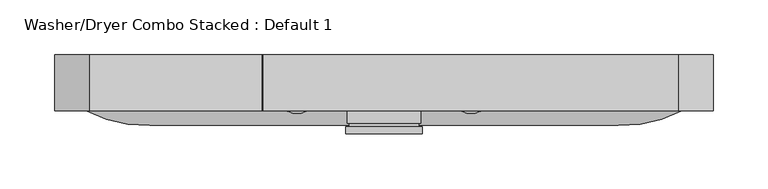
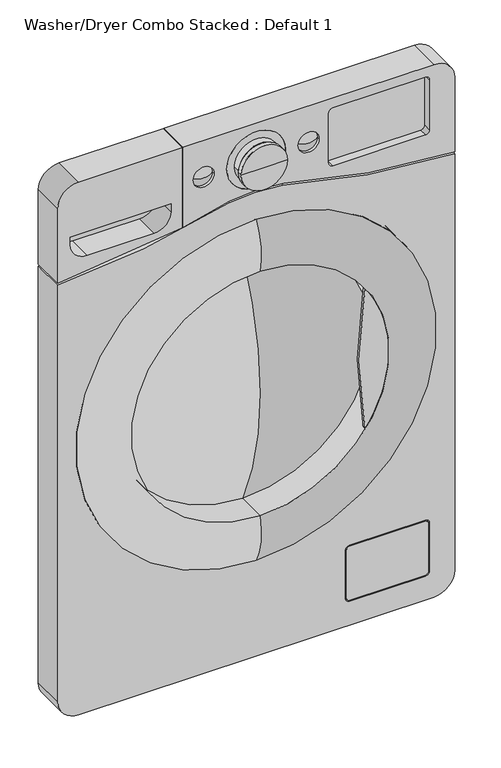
"""IFC4 building model written with IfcOpenShell, lengths in millimetres: proxy geometry, Washer/Dryer Combo Stacked : Default 1."""

from ifc_helpers import new_model, si_unit, point, frame, frame_2d, origin, place, context, project, spatial, polyline, circle_curve, ellipse_curve, trimmed, segment, composite_curve, outline, extrude, source, transform, mapped, element, save
from ifc_brep_helpers import plane_surface, cylinder_surface, revolved_surface, advanced_brep


def washer_dryer_combo_stacked_default_1_a79531fe(model_context):
    return source(origin(), model_context, "Body", "SolidModel", [
        advanced_brep(
        [(268.25, -599.2, 850.0), (300.0, -599.2, 818.25), (300.0, -599.2, 699.6273423), (41.197628, -599.2, 740.1937849), (-41.197628, -599.2, 740.1937849), (-110.0640352, -599.2, 722.9758922), (-110.0640352, -599.2, 850.0), (-63.5, -599.2, 792.2071157), (-95.25, -599.2, 792.2071157), (95.25, -599.2, 792.2071157), (63.5, -599.2, 792.2071157), (-44.45, -599.2, 792.2071157), (44.45, -599.2, 792.2071157), (-41.197628, -650.0, 740.1937849), (41.197628, -650.0, 740.1937849), (300.0, -650.0, 699.6273423), (300.0, -650.0, 818.25), (268.25, -650.0, 850.0), (-110.0640352, -650.0, 850.0), (-110.0640352, -650.0, 722.9758922), (-63.5, -650.0, 792.2071157), (-95.25, -650.0, 792.2071157), (95.25, -650.0, 792.2071157), (63.5, -650.0, 792.2071157), (255.55, -650.0, 742.05), (115.85, -650.0, 742.05), (109.5, -650.0, 748.4), (109.5, -650.0, 827.775), (115.85, -650.0, 834.125), (255.55, -650.0, 834.125), (261.9, -650.0, 827.775), (261.9, -650.0, 748.4), (44.45, -650.0, 792.2071157), (-44.45, -650.0, 792.2071157), (255.55, -637.3, 742.05), (261.9, -637.3, 748.4), (261.9, -637.3, 827.775), (255.55, -637.3, 834.125), (115.85, -637.3, 834.125), (109.5, -637.3, 827.775), (109.5, -637.3, 748.4), (115.85, -637.3, 742.05)],
        [
            (0, 1, circle_curve(frame((268.25, -599.2, 818.25), z_axis=(0.0, 1.0, 0.0), x_axis=(-1.0, 0.0, 0.0)), 31.75)),
            (1, 2),
            (2, 3, circle_curve(frame((335.100978, -599.2, 1769.3876052), z_axis=(0.0, 1.0, 0.0), x_axis=(-1.0, 0.0, 0.0)), 1070.3359747)),
            (3, 4, circle_curve(frame((0.0, -599.2, 425.0), z_axis=(0.0, -1.0, 0.0), x_axis=(-1.0, 0.0, 0.0)), 317.8747656)),
            (4, 5, circle_curve(frame((-335.100978, -599.2, 1769.3876052), z_axis=(0.0, 1.0, 0.0), x_axis=(-1.0, 0.0, 0.0)), 1070.3359747)),
            (5, 6),
            (6, 0),
            (7, 8, circle_curve(frame((-79.375, -599.2, 792.2071157), z_axis=(0.0, -1.0, 0.0), x_axis=(-1.0, 0.0, 0.0)), 15.875)),
            (8, 7, circle_curve(frame((-79.375, -599.2, 792.2071157), z_axis=(0.0, -1.0, 0.0), x_axis=(-1.0, 0.0, 0.0)), 15.875)),
            (9, 10, circle_curve(frame((79.375, -599.2, 792.2071157), z_axis=(0.0, -1.0, 0.0), x_axis=(-1.0, 0.0, 0.0)), 15.875)),
            (10, 9, circle_curve(frame((79.375, -599.2, 792.2071157), z_axis=(0.0, -1.0, 0.0), x_axis=(-1.0, 0.0, 0.0)), 15.875)),
            (11, 12, circle_curve(frame((0.0, -599.2, 792.2071157), z_axis=(0.0, -1.0, 0.0), x_axis=(-1.0, 0.0, 0.0)), 44.45)),
            (12, 11, circle_curve(frame((0.0, -599.2, 792.2071157), z_axis=(0.0, -1.0, 0.0), x_axis=(-1.0, 0.0, 0.0)), 44.45)),
            (13, 14, circle_curve(frame((0.0, -650.0, 425.0), z_axis=(0.0, 1.0, 0.0), x_axis=(-1.0, 0.0, 0.0)), 317.8747656)),
            (14, 15, circle_curve(frame((335.100978, -650.0, 1769.3876052), z_axis=(0.0, -1.0, 0.0), x_axis=(-1.0, 0.0, 0.0)), 1070.3359747)),
            (15, 16),
            (16, 17, circle_curve(frame((268.25, -650.0, 818.25), z_axis=(0.0, -1.0, 0.0), x_axis=(-1.0, 0.0, 0.0)), 31.75)),
            (17, 18),
            (18, 19),
            (19, 13, circle_curve(frame((-335.100978, -650.0, 1769.3876052), z_axis=(0.0, -1.0, 0.0), x_axis=(-1.0, 0.0, 0.0)), 1070.3359747)),
            (20, 21, circle_curve(frame((-79.375, -650.0, 792.2071157), z_axis=(0.0, 1.0, 0.0), x_axis=(-1.0, 0.0, 0.0)), 15.875)),
            (21, 20, circle_curve(frame((-79.375, -650.0, 792.2071157), z_axis=(0.0, 1.0, 0.0), x_axis=(-1.0, 0.0, 0.0)), 15.875)),
            (22, 23, circle_curve(frame((79.375, -650.0, 792.2071157), z_axis=(0.0, 1.0, 0.0), x_axis=(-1.0, 0.0, 0.0)), 15.875)),
            (23, 22, circle_curve(frame((79.375, -650.0, 792.2071157), z_axis=(0.0, 1.0, 0.0), x_axis=(-1.0, 0.0, 0.0)), 15.875)),
            (24, 25),
            (25, 26, circle_curve(frame((115.85, -650.0, 748.4), z_axis=(0.0, 1.0, 0.0), x_axis=(-1.0, 0.0, 0.0)), 6.35)),
            (26, 27),
            (27, 28, circle_curve(frame((115.85, -650.0, 827.775), z_axis=(0.0, 1.0, 0.0), x_axis=(-1.0, 0.0, 0.0)), 6.35)),
            (28, 29),
            (29, 30, circle_curve(frame((255.55, -650.0, 827.775), z_axis=(0.0, 1.0, 0.0), x_axis=(-1.0, 0.0, 0.0)), 6.35)),
            (30, 31),
            (31, 24, circle_curve(frame((255.55, -650.0, 748.4), z_axis=(0.0, 1.0, 0.0), x_axis=(-1.0, 0.0, 0.0)), 6.35)),
            (32, 33, circle_curve(frame((0.0, -650.0, 792.2071157), z_axis=(0.0, 1.0, 0.0), x_axis=(-1.0, 0.0, 0.0)), 44.45)),
            (33, 32, circle_curve(frame((0.0, -650.0, 792.2071157), z_axis=(0.0, 1.0, 0.0), x_axis=(-1.0, 0.0, 0.0)), 44.45)),
            (17, 0),
            (6, 18),
            (16, 1),
            (15, 2),
            (14, 3),
            (13, 4),
            (19, 5),
            (34, 35, circle_curve(frame((255.55, -637.3, 748.4), z_axis=(0.0, -1.0, 0.0), x_axis=(-1.0, 0.0, 0.0)), 6.35)),
            (35, 36),
            (36, 37, circle_curve(frame((255.55, -637.3, 827.775), z_axis=(0.0, -1.0, 0.0), x_axis=(-1.0, 0.0, 0.0)), 6.35)),
            (37, 38),
            (38, 39, circle_curve(frame((115.85, -637.3, 827.775), z_axis=(0.0, -1.0, 0.0), x_axis=(-1.0, 0.0, 0.0)), 6.35)),
            (39, 40),
            (40, 41, circle_curve(frame((115.85, -637.3, 748.4), z_axis=(0.0, -1.0, 0.0), x_axis=(-1.0, 0.0, 0.0)), 6.35)),
            (41, 34),
            (41, 25),
            (24, 34),
            (40, 26),
            (39, 27),
            (38, 28),
            (37, 29),
            (36, 30),
            (35, 31),
            (7, 20),
            (21, 8),
            (9, 22),
            (23, 10),
            (11, 33),
            (32, 12),
        ],
        [
            plane_surface(frame((236.5, -599.2, 818.25), z_axis=(0.0, 1.0, 0.0), x_axis=(0.0, 0.0, 1.0))),
            plane_surface(frame((236.5, -650.0, 818.25), z_axis=(0.0, -1.0, 0.0), x_axis=(0.0, 0.0, -1.0))),
            plane_surface(frame((-268.25, -599.2, 850.0), z_axis=(0.0, 0.0, 1.0), x_axis=(0.0, -1.0, 0.0))),
            cylinder_surface(frame((268.25, -650.0, 818.25), z_axis=(0.0, 1.0, 0.0), x_axis=(-1.0, 0.0, 0.0)), 31.75),
            plane_surface(frame((300.0, -599.2, 818.25), z_axis=(1.0, 0.0, 0.0), x_axis=(0.0, -1.0, 0.0))),
            cylinder_surface(frame((335.100978, -650.0, 1769.3876052), z_axis=(0.0, 1.0, 0.0), x_axis=(-1.0, 0.0, 0.0)), 1070.3359747),
            revolved_surface(polyline([(-317.8747656, -650.0, 425.0), (-317.8747656, -599.2, 425.0)]), (0.0, -650.0, 425.0), (0.0, -1.0, 0.0)),
            cylinder_surface(frame((-335.100978, -650.0, 1769.3876052), z_axis=(0.0, 1.0, 0.0), x_axis=(-1.0, 0.0, 0.0)), 1070.3359747),
            plane_surface(frame((-110.0640352, -599.2, 850.0), z_axis=(-1.0, 0.0, 0.0), x_axis=(0.0, -1.0, 0.0))),
            plane_surface(frame((115.85, -637.3, 742.05), z_axis=(0.0, -1.0, 0.0), x_axis=(-1.0, 0.0, 0.0))),
            plane_surface(frame((255.55, -637.3, 742.05), z_axis=(0.0, 0.0, 1.0), x_axis=(0.0, -1.0, 0.0))),
            revolved_surface(polyline([(109.5, -637.3, 748.4), (109.5, -650.0, 748.4)]), (115.85, -650.0, 748.4), (0.0, 1.0, 0.0)),
            plane_surface(frame((109.5, -637.3, 748.4), z_axis=(1.0, 0.0, 0.0), x_axis=(0.0, -1.0, 0.0))),
            revolved_surface(polyline([(109.5, -637.3, 827.775), (109.5, -650.0, 827.775)]), (115.85, -650.0, 827.775), (0.0, 1.0, 0.0)),
            plane_surface(frame((115.85, -637.3, 834.125), z_axis=(0.0, 0.0, -1.0), x_axis=(0.0, -1.0, 0.0))),
            revolved_surface(polyline([(249.20000000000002, -637.3, 827.775), (249.20000000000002, -650.0, 827.775)]), (255.55, -650.0, 827.775), (0.0, 1.0, 0.0)),
            plane_surface(frame((261.9, -637.3, 827.775), z_axis=(-1.0, 0.0, 0.0), x_axis=(0.0, -1.0, 0.0))),
            revolved_surface(polyline([(249.20000000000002, -637.3, 748.4), (249.20000000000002, -650.0, 748.4)]), (255.55, -650.0, 748.4), (0.0, 1.0, 0.0)),
            revolved_surface(polyline([(-95.25, -650.0, 792.2071157), (-95.25, -599.2, 792.2071157)]), (-79.375, -650.0, 792.2071157), (0.0, -1.0, 0.0)),
            revolved_surface(polyline([(63.5, -650.0, 792.2071157), (63.5, -599.2, 792.2071157)]), (79.375, -650.0, 792.2071157), (0.0, -1.0, 0.0)),
            revolved_surface(polyline([(-44.45, -599.2, 792.2071157), (-44.45, -650.0, 792.2071157)]), (0.0, -650.0, 792.2071157), (0.0, 1.0, 0.0)),
        ],
        [
            (0, [[1, 2, 3, 4, 5, 6, 7], [8, 9], [10, 11], [12, 13]]),
            (1, [[14, 15, 16, 17, 18, 19, 20], [21, 22], [23, 24], [25, 26, 27, 28, 29, 30, 31, 32], [33, 34]]),
            (2, [[35, -7, 36, -18]]),
            (3, [[-1, -35, -17, 37]]),
            (4, [[-2, -37, -16, 38]]),
            (5, [[-3, -38, -15, 39]]),
            (6, [[-4, -39, -14, 40]]),
            (7, [[-40, -20, 41, -5]]),
            (8, [[-6, -41, -19, -36]]),
            (9, [[42, 43, 44, 45, 46, 47, 48, 49]]),
            (10, [[-49, 50, -25, 51]]),
            (11, [[-48, 52, -26, -50]]),
            (12, [[-47, 53, -27, -52]]),
            (13, [[-46, 54, -28, -53]]),
            (14, [[-45, 55, -29, -54]]),
            (15, [[-44, 56, -30, -55]]),
            (16, [[-43, 57, -31, -56]]),
            (17, [[-42, -51, -32, -57]]),
            (18, [[-8, 58, -22, 59]]),
            (18, [[-9, -59, -21, -58]]),
            (19, [[-10, 60, -24, 61]]),
            (19, [[-11, -61, -23, -60]]),
            (20, [[62, -33, 63, -12]]),
            (20, [[-62, -13, -63, -34]]),
        ],
    ),
        advanced_brep(
        [(-300.0, -599.2, 699.6273423), (-300.0, -599.2, 818.25), (-268.25, -599.2, 850.0), (-111.6515352, -599.2, 850.0), (-111.6515352, -599.2, 722.6357505), (-268.25, -650.0, 850.0), (-300.0, -650.0, 818.25), (-300.0, -650.0, 699.6273423), (-111.6515352, -650.0, 722.6357505), (-111.6515352, -650.0, 850.0), (-128.55, -650.0, 766.8071157), (-128.55, -650.0, 754.1071157), (-153.95, -650.0, 728.7071157), (-255.55, -650.0, 728.7071157), (-280.95, -650.0, 754.1071157), (-280.95, -650.0, 766.8071157), (-128.55, -611.9, 766.8071157), (-280.95, -611.9, 766.8071157), (-280.95, -611.9, 754.1071157), (-255.55, -611.9, 728.7071157), (-153.95, -611.9, 728.7071157), (-128.55, -611.9, 754.1071157)],
        [
            (0, 1),
            (1, 2, circle_curve(frame((-268.25, -599.2, 818.25), z_axis=(0.0, 1.0, 0.0), x_axis=(-1.0, 0.0, 0.0)), 31.75)),
            (2, 3),
            (3, 4),
            (4, 0, circle_curve(frame((-335.100978, -599.2, 1769.3876052), z_axis=(0.0, 1.0, 0.0), x_axis=(-1.0, 0.0, 0.0)), 1070.3359747)),
            (5, 6, circle_curve(frame((-268.25, -650.0, 818.25), z_axis=(0.0, -1.0, 0.0), x_axis=(-1.0, 0.0, 0.0)), 31.75)),
            (6, 7),
            (7, 8, circle_curve(frame((-335.100978, -650.0, 1769.3876052), z_axis=(0.0, -1.0, 0.0), x_axis=(-1.0, 0.0, 0.0)), 1070.3359747)),
            (8, 9),
            (9, 5),
            (10, 11),
            (11, 12, circle_curve(frame((-153.95, -650.0, 754.1071157), z_axis=(0.0, 1.0, 0.0), x_axis=(-1.0, 0.0, 0.0)), 25.4)),
            (12, 13),
            (13, 14, circle_curve(frame((-255.55, -650.0, 754.1071157), z_axis=(0.0, 1.0, 0.0), x_axis=(-1.0, 0.0, 0.0)), 25.4)),
            (14, 15),
            (15, 10),
            (2, 5),
            (9, 3),
            (7, 0),
            (4, 8),
            (6, 1),
            (16, 17),
            (17, 18),
            (18, 19, circle_curve(frame((-255.55, -611.9, 754.1071157), z_axis=(0.0, -1.0, 0.0), x_axis=(-1.0, 0.0, 0.0)), 25.4)),
            (19, 20),
            (20, 21, circle_curve(frame((-153.95, -611.9, 754.1071157), z_axis=(0.0, -1.0, 0.0), x_axis=(-1.0, 0.0, 0.0)), 25.4)),
            (21, 16),
            (21, 11),
            (10, 16),
            (20, 12),
            (19, 13),
            (18, 14),
            (17, 15),
        ],
        [
            plane_surface(frame((236.5, -599.2, 818.25), z_axis=(0.0, 1.0, 0.0), x_axis=(0.0, 0.0, 1.0))),
            plane_surface(frame((236.5, -650.0, 818.25), z_axis=(0.0, -1.0, 0.0), x_axis=(0.0, 0.0, -1.0))),
            plane_surface(frame((-268.25, -599.2, 850.0), z_axis=(0.0, 0.0, 1.0), x_axis=(0.0, -1.0, 0.0))),
            cylinder_surface(frame((-335.100978, -650.0, 1769.3876052), z_axis=(0.0, 1.0, 0.0), x_axis=(-1.0, 0.0, 0.0)), 1070.3359747),
            plane_surface(frame((-300.0, -599.2, 699.6273423), z_axis=(-1.0, 0.0, 0.0), x_axis=(0.0, -1.0, 0.0))),
            cylinder_surface(frame((-268.25, -650.0, 818.25), z_axis=(0.0, 1.0, 0.0), x_axis=(-1.0, 0.0, 0.0)), 31.75),
            plane_surface(frame((-128.55, -611.9, 766.8071157), z_axis=(0.0, -1.0, 0.0), x_axis=(0.0, 0.0, -1.0))),
            plane_surface(frame((-128.55, -611.9, 766.8071157), z_axis=(-1.0, 0.0, 0.0), x_axis=(0.0, -1.0, 0.0))),
            revolved_surface(polyline([(-179.35, -611.9, 754.1071157), (-179.35, -650.0, 754.1071157)]), (-153.95, -650.0, 754.1071157), (0.0, 1.0, 0.0)),
            plane_surface(frame((-153.95, -611.9, 728.7071157), z_axis=(0.0, 0.0, 1.0), x_axis=(0.0, -1.0, 0.0))),
            revolved_surface(polyline([(-280.95, -611.9, 754.1071157), (-280.95, -650.0, 754.1071157)]), (-255.55, -650.0, 754.1071157), (0.0, 1.0, 0.0)),
            plane_surface(frame((-280.95, -611.9, 754.1071157), z_axis=(1.0, 0.0, 0.0), x_axis=(0.0, -1.0, 0.0))),
            plane_surface(frame((-280.95, -611.9, 766.8071157), z_axis=(0.0, 0.0, -1.0), x_axis=(0.0, -1.0, 0.0))),
            plane_surface(frame((-111.6515352, -599.2, 721.6531644), z_axis=(1.0, 0.0, 0.0), x_axis=(0.0, -1.0, 0.0))),
        ],
        [
            (0, [[1, 2, 3, 4, 5]]),
            (1, [[6, 7, 8, 9, 10], [11, 12, 13, 14, 15, 16]]),
            (2, [[17, -10, 18, -3]]),
            (3, [[19, -5, 20, -8]]),
            (4, [[-1, -19, -7, 21]]),
            (5, [[-2, -21, -6, -17]]),
            (6, [[22, 23, 24, 25, 26, 27]]),
            (7, [[-27, 28, -11, 29]]),
            (8, [[-26, 30, -12, -28]]),
            (9, [[-25, 31, -13, -30]]),
            (10, [[-24, 32, -14, -31]]),
            (11, [[-23, 33, -15, -32]]),
            (12, [[-22, -29, -16, -33]]),
            (13, [[-4, -18, -9, -20]]),
        ],
    ),
        advanced_brep(
        [(-300.0, -599.2, 696.4508315), (-40.4210503, -599.2, 737.1138337), (40.4210503, -599.2, 737.1138337), (300.0, -599.2, 696.4508315), (300.0, -599.2, 31.75), (268.25, -599.2, 0.0), (-268.25, -599.2, 0.0), (-300.0, -599.2, 31.75), (254.0, -599.2, 425.0), (-254.0, -599.2, 425.0), (-300.0, -650.0, 696.4508315), (-300.0, -650.0, 31.75), (-268.25, -650.0, 0.0), (268.25, -650.0, 0.0), (300.0, -650.0, 31.75), (300.0, -650.0, 696.4508315), (40.4210503, -650.0, 737.1138337), (-40.4210503, -650.0, 737.1138337), (254.0, -650.0, 425.0), (-254.0, -650.0, 425.0), (261.9, -650.0, 120.65), (261.9, -650.0, 44.45), (255.55, -650.0, 38.1), (141.25, -650.0, 38.1), (134.9, -650.0, 44.45), (134.9, -650.0, 120.65), (141.25, -650.0, 127.0), (255.55, -650.0, 127.0), (260.3125, -650.0, 44.45), (260.3125, -650.0, 120.65), (255.55, -650.0, 125.4125), (141.25, -650.0, 125.4125), (136.4875, -650.0, 120.65), (136.4875, -650.0, 44.45), (141.25, -650.0, 39.6875), (255.55, -650.0, 39.6875), (260.3125, -636.50625, 44.45), (260.3125, -636.50625, 120.65), (261.9, -636.50625, 120.65), (261.9, -636.50625, 44.45), (141.25, -636.50625, 39.6875), (255.55, -636.50625, 39.6875), (255.55, -636.50625, 38.1), (141.25, -636.50625, 38.1), (136.4875, -636.50625, 120.65), (136.4875, -636.50625, 44.45), (134.9, -636.50625, 44.45), (134.9, -636.50625, 120.65), (255.55, -636.50625, 125.4125), (141.25, -636.50625, 125.4125), (141.25, -636.50625, 127.0), (255.55, -636.50625, 127.0)],
        [
            (0, 1, circle_curve(frame((-335.100978, -599.2, 1769.3876052), z_axis=(0.0, -1.0, 0.0), x_axis=(-1.0, 0.0, 0.0)), 1073.510782)),
            (1, 2, circle_curve(frame((0.0, -599.2, 425.0), z_axis=(0.0, 1.0, 0.0), x_axis=(-1.0, 0.0, 0.0)), 314.7203624)),
            (2, 3, circle_curve(frame((335.100978, -599.2, 1769.3876052), z_axis=(0.0, -1.0, 0.0), x_axis=(-1.0, 0.0, 0.0)), 1073.510782)),
            (3, 4),
            (4, 5, circle_curve(frame((268.25, -599.2, 31.75), z_axis=(0.0, 1.0, 0.0), x_axis=(-1.0, 0.0, 0.0)), 31.75)),
            (5, 6),
            (6, 7, circle_curve(frame((-268.25, -599.2, 31.75), z_axis=(0.0, 1.0, 0.0), x_axis=(-1.0, 0.0, 0.0)), 31.75)),
            (7, 0),
            (8, 9, circle_curve(frame((0.0, -599.2, 425.0), z_axis=(0.0, -1.0, 0.0), x_axis=(-1.0, 0.0, 0.0)), 254.0)),
            (9, 8, circle_curve(frame((0.0, -599.2, 425.0), z_axis=(0.0, -1.0, 0.0), x_axis=(-1.0, 0.0, 0.0)), 254.0)),
            (10, 11),
            (11, 12, circle_curve(frame((-268.25, -650.0, 31.75), z_axis=(0.0, -1.0, 0.0), x_axis=(-1.0, 0.0, 0.0)), 31.75)),
            (12, 13),
            (13, 14, circle_curve(frame((268.25, -650.0, 31.75), z_axis=(0.0, -1.0, 0.0), x_axis=(-1.0, 0.0, 0.0)), 31.75)),
            (14, 15),
            (15, 16, circle_curve(frame((335.100978, -650.0, 1769.3876052), z_axis=(0.0, 1.0, 0.0), x_axis=(-1.0, 0.0, 0.0)), 1073.510782)),
            (16, 17, circle_curve(frame((0.0, -650.0, 425.0), z_axis=(0.0, -1.0, 0.0), x_axis=(-1.0, 0.0, 0.0)), 314.7203624)),
            (17, 10, circle_curve(frame((-335.100978, -650.0, 1769.3876052), z_axis=(0.0, 1.0, 0.0), x_axis=(-1.0, 0.0, 0.0)), 1073.510782)),
            (18, 19, circle_curve(frame((0.0, -650.0, 425.0), z_axis=(0.0, 1.0, 0.0), x_axis=(-1.0, 0.0, 0.0)), 254.0)),
            (19, 18, circle_curve(frame((0.0, -650.0, 425.0), z_axis=(0.0, 1.0, 0.0), x_axis=(-1.0, 0.0, 0.0)), 254.0)),
            (20, 21),
            (21, 22, circle_curve(frame((255.55, -650.0, 44.45), z_axis=(0.0, 1.0, 0.0), x_axis=(1.0, 0.0, 0.0)), 6.35)),
            (22, 23),
            (23, 24, circle_curve(frame((141.25, -650.0, 44.45), z_axis=(0.0, 1.0, 0.0), x_axis=(0.0, 0.0, -1.0)), 6.35)),
            (24, 25),
            (25, 26, circle_curve(frame((141.25, -650.0, 120.65), z_axis=(0.0, 1.0, 0.0), x_axis=(-1.0, 0.0, 0.0)), 6.35)),
            (26, 27),
            (27, 20, circle_curve(frame((255.55, -650.0, 120.65), z_axis=(0.0, 1.0, 0.0), x_axis=(0.0, 0.0, 1.0)), 6.35)),
            (28, 29),
            (29, 30, circle_curve(frame((255.55, -650.0, 120.65), z_axis=(0.0, -1.0, 0.0), x_axis=(0.0, 0.0, 1.0)), 4.7625)),
            (30, 31),
            (31, 32, circle_curve(frame((141.25, -650.0, 120.65), z_axis=(0.0, -1.0, 0.0), x_axis=(-1.0, 0.0, 0.0)), 4.7625)),
            (32, 33),
            (33, 34, circle_curve(frame((141.25, -650.0, 44.45), z_axis=(0.0, -1.0, 0.0), x_axis=(0.0, 0.0, -1.0)), 4.7625)),
            (34, 35),
            (35, 28, circle_curve(frame((255.55, -650.0, 44.45), z_axis=(0.0, -1.0, 0.0), x_axis=(1.0, 0.0, 0.0)), 4.7625)),
            (3, 15),
            (14, 4),
            (5, 13),
            (12, 6),
            (7, 11),
            (10, 0),
            (17, 1),
            (16, 2),
            (8, 18),
            (19, 9),
            (28, 36),
            (36, 37),
            (37, 29),
            (38, 39),
            (39, 21),
            (20, 38),
            (34, 40),
            (40, 41),
            (41, 35),
            (42, 43),
            (43, 23),
            (22, 42),
            (32, 44),
            (44, 45),
            (45, 33),
            (46, 47),
            (47, 25),
            (24, 46),
            (30, 48),
            (48, 49),
            (49, 31),
            (50, 51),
            (51, 27),
            (26, 50),
            (37, 48, circle_curve(frame((255.55, -636.50625, 120.65), z_axis=(0.0, -1.0, 0.0), x_axis=(0.0, 0.0, 1.0)), 4.7625)),
            (51, 38, circle_curve(frame((255.55, -636.50625, 120.65), z_axis=(0.0, 1.0, 0.0), x_axis=(0.0, 0.0, 1.0)), 6.35)),
            (41, 36, circle_curve(frame((255.55, -636.50625, 44.45), z_axis=(0.0, -1.0, 0.0), x_axis=(1.0, 0.0, 0.0)), 4.7625)),
            (39, 42, circle_curve(frame((255.55, -636.50625, 44.45), z_axis=(0.0, 1.0, 0.0), x_axis=(1.0, 0.0, 0.0)), 6.35)),
            (45, 40, circle_curve(frame((141.25, -636.50625, 44.45), z_axis=(0.0, -1.0, 0.0), x_axis=(0.0, 0.0, -1.0)), 4.7625)),
            (43, 46, circle_curve(frame((141.25, -636.50625, 44.45), z_axis=(0.0, 1.0, 0.0), x_axis=(0.0, 0.0, -1.0)), 6.35)),
            (50, 47, circle_curve(frame((141.25, -636.50625, 120.65), z_axis=(0.0, -1.0, 0.0), x_axis=(-1.0, 0.0, 0.0)), 6.35)),
            (44, 49, circle_curve(frame((141.25, -636.50625, 120.65), z_axis=(0.0, 1.0, 0.0), x_axis=(-1.0, 0.0, 0.0)), 4.7625)),
        ],
        [
            plane_surface(frame((236.5, -599.2, 818.25), z_axis=(0.0, 1.0, 0.0), x_axis=(0.0, 0.0, 1.0))),
            plane_surface(frame((236.5, -650.0, 818.25), z_axis=(0.0, -1.0, 0.0), x_axis=(0.0, 0.0, -1.0))),
            plane_surface(frame((300.0, -599.2, 696.4508315), z_axis=(1.0, 0.0, 0.0), x_axis=(0.0, -1.0, 0.0))),
            plane_surface(frame((268.25, -599.2, 0.0), z_axis=(0.0, 0.0, -1.0), x_axis=(0.0, -1.0, 0.0))),
            plane_surface(frame((-300.0, -599.2, 31.75), z_axis=(-1.0, 0.0, 0.0), x_axis=(0.0, -1.0, 0.0))),
            revolved_surface(polyline([(-1408.61176, -650.0, 1769.3876052), (-1408.61176, -599.2, 1769.3876052)]), (-335.100978, -650.0, 1769.3876052), (0.0, -1.0, 0.0)),
            cylinder_surface(frame((0.0, -650.0, 425.0), z_axis=(0.0, 1.0, 0.0), x_axis=(-1.0, 0.0, 0.0)), 314.7203624),
            revolved_surface(polyline([(-738.4098040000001, -650.0, 1769.3876052), (-738.4098040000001, -599.2, 1769.3876052)]), (335.100978, -650.0, 1769.3876052), (0.0, -1.0, 0.0)),
            cylinder_surface(frame((268.25, -650.0, 31.75), z_axis=(0.0, 1.0, 0.0), x_axis=(-1.0, 0.0, 0.0)), 31.75),
            cylinder_surface(frame((-268.25, -650.0, 31.75), z_axis=(0.0, 1.0, 0.0), x_axis=(-1.0, 0.0, 0.0)), 31.75),
            revolved_surface(polyline([(-254.0, -650.0, 425.0), (-254.0, -599.2, 425.0)]), (0.0, -650.0, 425.0), (0.0, -1.0, 0.0)),
            plane_surface(frame((260.3125, -636.50625, 120.65), z_axis=(1.0, 0.0, 0.0), x_axis=(0.0, 0.0, -1.0))),
            plane_surface(frame((261.9, -650.0, 120.65), z_axis=(-1.0, 0.0, 0.0), x_axis=(0.0, 0.0, -1.0))),
            plane_surface(frame((255.55, -636.50625, 39.6875), z_axis=(0.0, 0.0, -1.0), x_axis=(-1.0, 0.0, 0.0))),
            plane_surface(frame((255.55, -650.0, 38.1), z_axis=(0.0, 0.0, 1.0), x_axis=(-1.0, 0.0, 0.0))),
            plane_surface(frame((136.4875, -636.50625, 44.45), z_axis=(-1.0, 0.0, 0.0), x_axis=(0.0, 0.0, 1.0))),
            plane_surface(frame((134.9, -650.0, 44.45), z_axis=(1.0, 0.0, 0.0), x_axis=(0.0, 0.0, 1.0))),
            plane_surface(frame((141.25, -636.50625, 125.4125), z_axis=(0.0, 0.0, 1.0), x_axis=(1.0, 0.0, 0.0))),
            plane_surface(frame((141.25, -650.0, 127.0), z_axis=(0.0, 0.0, -1.0), x_axis=(1.0, 0.0, 0.0))),
            cylinder_surface(frame((255.55, -650.0, 120.65), z_axis=(0.0, 1.0, 0.0), x_axis=(0.0, 0.0, 1.0)), 4.7625),
            revolved_surface(polyline([(255.55, -636.50625, 127.0), (255.55, -650.0, 127.0)]), (255.55, -650.0, 120.65), (0.0, 1.0, 0.0)),
            cylinder_surface(frame((255.55, -650.0, 44.45), z_axis=(0.0, 1.0, 0.0), x_axis=(1.0, 0.0, 0.0)), 4.7625),
            revolved_surface(polyline([(261.90000000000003, -636.50625, 44.45), (261.90000000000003, -650.0, 44.45)]), (255.55, -650.0, 44.45), (0.0, 1.0, 0.0)),
            cylinder_surface(frame((141.25, -650.0, 44.45), z_axis=(0.0, 1.0, 0.0), x_axis=(0.0, 0.0, -1.0)), 4.7625),
            revolved_surface(polyline([(141.25, -636.50625, 38.1), (141.25, -650.0, 38.1)]), (141.25, -650.0, 44.45), (0.0, 1.0, 0.0)),
            plane_surface(frame((141.25, -636.50625, 120.65), z_axis=(0.0, -1.0, 0.0), x_axis=(-1.0, 0.0, 0.0))),
            cylinder_surface(frame((141.25, -650.0, 120.65), z_axis=(0.0, 1.0, 0.0), x_axis=(-1.0, 0.0, 0.0)), 4.7625),
            revolved_surface(polyline([(134.9, -636.50625, 120.65), (134.9, -650.0, 120.65)]), (141.25, -650.0, 120.65), (0.0, 1.0, 0.0)),
        ],
        [
            (0, [[1, 2, 3, 4, 5, 6, 7, 8], [9, 10]]),
            (1, [[11, 12, 13, 14, 15, 16, 17, 18], [19, 20], [21, 22, 23, 24, 25, 26, 27, 28]]),
            (1, [[29, 30, 31, 32, 33, 34, 35, 36]]),
            (2, [[-4, 37, -15, 38]]),
            (3, [[-6, 39, -13, 40]]),
            (4, [[-8, 41, -11, 42]]),
            (5, [[-1, -42, -18, 43]]),
            (6, [[-2, -43, -17, 44]]),
            (7, [[-3, -44, -16, -37]]),
            (8, [[-5, -38, -14, -39]]),
            (9, [[-7, -40, -12, -41]]),
            (10, [[-9, 45, -20, 46]]),
            (10, [[-10, -46, -19, -45]]),
            (11, [[47, 48, 49, -29]]),
            (12, [[50, 51, -21, 52]]),
            (13, [[53, 54, 55, -35]]),
            (14, [[56, 57, -23, 58]]),
            (15, [[59, 60, 61, -33]]),
            (16, [[62, 63, -25, 64]]),
            (17, [[65, 66, 67, -31]]),
            (18, [[68, 69, -27, 70]]),
            (19, [[-49, 71, -65, -30]]),
            (20, [[-52, -28, -69, 72]]),
            (21, [[-47, -36, -55, 73]]),
            (22, [[-51, 74, -58, -22]]),
            (23, [[-53, -34, -61, 75]]),
            (24, [[-57, 76, -64, -24]]),
            (25, [[-50, -72, -68, 77, -62, -76, -56, -74], [-48, -73, -54, -75, -60, 78, -66, -71]]),
            (26, [[-59, -32, -67, -78]]),
            (27, [[-63, -77, -70, -26]]),
        ],
    ),
        advanced_brep(
        [(0.0, -599.2, 230.1111611), (0.0, -599.2, 619.8888389), (0.0, -599.2, 425.0), (0.0, -614.2356465, 230.1111611), (0.0, -614.2356465, 619.8888389), (0.0, -660.0440862, 425.0)],
        [
            (0, 1, circle_curve(frame((0.0, -599.2, 425.0), z_axis=(0.0, 1.0, 0.0), x_axis=(0.0, 0.0, 1.0)), 194.8888389)),
            (1, 2),
            (2, 0),
            (1, 0, circle_curve(frame((0.0, -599.2, 425.0), z_axis=(0.0, 1.0, 0.0), x_axis=(0.0, 0.0, 1.0)), 194.8888389)),
            (3, 4, circle_curve(frame((0.0, -614.2356465, 425.0), z_axis=(0.0, 1.0, 0.0), x_axis=(0.0, 0.0, 1.0)), 194.8888389)),
            (4, 1),
            (0, 3),
            (4, 3, circle_curve(frame((0.0, -614.2356465, 425.0), z_axis=(0.0, 1.0, 0.0), x_axis=(0.0, 0.0, 1.0)), 194.8888389)),
            (5, 4, circle_curve(frame((0.0, -222.5693225, 425.0), z_axis=(-1.0, 0.0, 0.0), x_axis=(0.0, 1.0, 0.0)), 437.4747638)),
            (3, 5, circle_curve(frame((0.0, -222.5693225, 425.0), z_axis=(-1.0, 0.0, 0.0), x_axis=(0.0, 1.0, 0.0)), 437.4747638)),
        ],
        [
            plane_surface(frame((0.0, -599.2, 425.0), z_axis=(0.0, 1.0, 0.0), x_axis=(0.0, 0.0, 1.0))),
            cylinder_surface(frame((0.0, 2097.4086068, 425.0), z_axis=(0.0, -1.0, 0.0), x_axis=(0.0, 0.0, 1.0)), 194.8888389),
            revolved_surface(trimmed(ellipse_curve(frame((0.0, -222.5693225, 425.0), z_axis=(1.0, 0.0, 0.0), x_axis=(0.0, 1.0, 0.0)), 437.4747638, 437.4747638), [point((0.0, -614.2356465, 619.8888389))], [point((0.0, -660.0440862, 425.0))], True, "CARTESIAN"), (0.0, 2097.4086068, 425.0), (0.0, -1.0, 0.0)),
        ],
        [
            (0, [[1, 2, 3]]),
            (0, [[4, -3, -2]]),
            (1, [[5, 6, -1, 7]]),
            (1, [[8, -7, -4, -6]]),
            (2, [[9, -5, 10]]),
            (2, [[-10, -8, -9]]),
        ],
    ),
        advanced_brep(
        [(0.0, -660.1804538, 230.1111611), (0.0, -660.1804538, 619.8888389), (0.0, -650.0, 698.05), (0.0, -650.0, 151.95), (0.0, -599.2, 230.1111611), (0.0, -599.2, 619.8888389), (0.0, -599.2, 151.95), (0.0, -599.2, 698.05)],
        [
            (0, 1, circle_curve(frame((0.0, -660.1804538, 425.0), z_axis=(0.0, 1.0, 0.0), x_axis=(0.0, 0.0, 1.0)), 194.8888389)),
            (1, 2, circle_curve(frame((0.0, -553.6052478, 645.7510496), z_axis=(-1.0, 0.0, 0.0), x_axis=(0.0, 1.0, 0.0)), 109.6682655)),
            (2, 3, circle_curve(frame((0.0, -650.0, 425.0), z_axis=(0.0, -1.0, 0.0), x_axis=(0.0, 0.0, 1.0)), 273.05)),
            (3, 0, circle_curve(frame((0.0, -553.6052478, 204.2489504), z_axis=(-1.0, 0.0, 0.0), x_axis=(0.0, 1.0, 0.0)), 109.6682655)),
            (1, 0, circle_curve(frame((0.0, -660.1804538, 425.0), z_axis=(0.0, 1.0, 0.0), x_axis=(0.0, 0.0, 1.0)), 194.8888389)),
            (3, 2, circle_curve(frame((0.0, -650.0, 425.0), z_axis=(0.0, -1.0, 0.0), x_axis=(0.0, 0.0, 1.0)), 273.05)),
            (4, 5, circle_curve(frame((0.0, -599.2, 425.0), z_axis=(0.0, 1.0, 0.0), x_axis=(0.0, 0.0, 1.0)), 194.8888389)),
            (5, 1),
            (0, 4),
            (5, 4, circle_curve(frame((0.0, -599.2, 425.0), z_axis=(0.0, 1.0, 0.0), x_axis=(0.0, 0.0, 1.0)), 194.8888389)),
            (6, 7, circle_curve(frame((0.0, -599.2, 425.0), z_axis=(0.0, 1.0, 0.0), x_axis=(0.0, 0.0, 1.0)), 273.05)),
            (7, 5),
            (4, 6),
            (7, 6, circle_curve(frame((0.0, -599.2, 425.0), z_axis=(0.0, 1.0, 0.0), x_axis=(0.0, 0.0, 1.0)), 273.05)),
            (2, 7),
            (6, 3),
        ],
        [
            revolved_surface(trimmed(ellipse_curve(frame((0.0, -553.6052478, 645.7510496), z_axis=(1.0, 0.0, 0.0), x_axis=(0.0, 1.0, 0.0)), 109.6682655, 109.6682655), [point((0.0, -650.0, 698.05))], [point((0.0, -660.1804538, 619.8888389))], True, "CARTESIAN"), (0.0, 2097.4086068, 425.0), (0.0, -1.0, 0.0)),
            revolved_surface(polyline([(0.0, -660.1804538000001, 619.8888389), (0.0, -599.2000000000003, 619.8888389)]), (0.0, 2097.4086068, 425.0), (0.0, -1.0, 0.0)),
            plane_surface(frame((0.0, -599.2, 425.0), z_axis=(0.0, 1.0, 0.0), x_axis=(0.0, 0.0, 1.0))),
            cylinder_surface(frame((0.0, 2097.4086068, 425.0), z_axis=(0.0, -1.0, 0.0), x_axis=(0.0, 0.0, 1.0)), 273.05),
        ],
        [
            (0, [[1, 2, 3, 4]]),
            (0, [[5, -4, 6, -2]]),
            (1, [[7, 8, -1, 9]]),
            (1, [[10, -9, -5, -8]]),
            (2, [[11, 12, -7, 13]]),
            (2, [[14, -13, -10, -12]]),
            (3, [[-3, 15, -11, 16]]),
            (3, [[-6, -16, -14, -15]]),
        ],
    ),
        extrude(outline(composite_curve([segment(trimmed(circle_curve(frame_2d((792.2071157, 0.0)), 44.45), [point((792.2071157, 44.45))], [point((792.2071157, -44.45))], False, "CARTESIAN"), True, "CONTINUOUS"), segment(trimmed(circle_curve(frame_2d((792.2071157, 0.0)), 44.45), [point((792.2071157, -44.45))], [point((792.2071157, 44.45))], False, "CARTESIAN"), True, "CONTINUOUS")], self_intersect=False)), frame((0.0, -650.0, 0.0), z_axis=(0.0, 1.0, 0.0), x_axis=(0.0, 0.0, 1.0)), (0.0, 0.0, 1.0), 50.8),
        extrude(outline(composite_curve([segment(trimmed(circle_curve(frame_2d((425.0, 0.0)), 194.8888389), [point((311.5007643, 158.4284792))], [point((538.4992357, 158.4284792))], False, "CARTESIAN"), True, "CONTINUOUS"), segment(trimmed(circle_curve(frame_2d((425.0, 881.0247467)), 731.4557009), [point((538.4992357, 158.4284792))], [point((311.5007643, 158.4284792))], False, "CARTESIAN"), True, "CONTINUOUS")], self_intersect=False)), frame((0.0, -660.1804538, 0.0), z_axis=(0.0, 1.0, 0.0), x_axis=(0.0, 0.0, 1.0)), (0.0, 0.0, 1.0), 3.5920829),
        advanced_brep(
        [(79.375, -652.3559326, 792.2071157), (63.5, -646.0059326, 792.2071157), (95.25, -646.0059326, 792.2071157), (79.375, -646.0059326, 792.2071157)],
        [
            (0, 1, circle_curve(frame((81.0201143, -625.2243968, 792.2071157), z_axis=(0.0, 0.0, -1.0), x_axis=(-1.0, 0.0, 0.0)), 27.1813656)),
            (1, 2, circle_curve(frame((79.375, -646.0059326, 792.2071157), z_axis=(0.0, -1.0, 0.0), x_axis=(-1.0, 0.0, 0.0)), 15.875)),
            (2, 0, circle_curve(frame((77.7298857, -625.2243968, 792.2071157), z_axis=(0.0, 0.0, -1.0), x_axis=(1.0, 0.0, 0.0)), 27.1813656)),
            (2, 1, circle_curve(frame((79.375, -646.0059326, 792.2071157), z_axis=(0.0, -1.0, 0.0), x_axis=(-1.0, 0.0, 0.0)), 15.875)),
            (1, 3),
            (3, 2),
        ],
        [
            revolved_surface(trimmed(ellipse_curve(frame((81.0201143, -625.2243968, 792.2071157), z_axis=(0.0, 0.0, 1.0), x_axis=(-1.0, 0.0, 0.0)), 27.1813656, 27.1813656), [point((63.5, -646.0059326, 792.2071157))], [point((79.375, -652.3559326, 792.2071157))], True, "CARTESIAN"), (79.375, -704.7151131, 792.2071157), (0.0, -1.0, 0.0)),
            plane_surface(frame((79.375, -646.0059326, 792.2071157), z_axis=(0.0, 1.0, 0.0), x_axis=(-1.0, 0.0, 0.0))),
        ],
        [
            (0, [[1, 2, 3]]),
            (0, [[-3, 4, -1]]),
            (1, [[-2, 5, 6]]),
            (1, [[-4, -6, -5]]),
        ],
    ),
        advanced_brep(
        [(-79.375, -652.3559326, 792.2071157), (-95.25, -646.0059326, 792.2071157), (-63.5, -646.0059326, 792.2071157), (-79.375, -646.0059326, 792.2071157)],
        [
            (0, 1, circle_curve(frame((-77.7298857, -625.2243968, 792.2071157), z_axis=(0.0, 0.0, -1.0), x_axis=(-1.0, 0.0, 0.0)), 27.1813656)),
            (1, 2, circle_curve(frame((-79.375, -646.0059326, 792.2071157), z_axis=(0.0, -1.0, 0.0), x_axis=(-1.0, 0.0, 0.0)), 15.875)),
            (2, 0, circle_curve(frame((-81.0201143, -625.2243968, 792.2071157), z_axis=(0.0, 0.0, -1.0), x_axis=(1.0, 0.0, 0.0)), 27.1813656)),
            (2, 1, circle_curve(frame((-79.375, -646.0059326, 792.2071157), z_axis=(0.0, -1.0, 0.0), x_axis=(-1.0, 0.0, 0.0)), 15.875)),
            (1, 3),
            (3, 2),
        ],
        [
            revolved_surface(trimmed(ellipse_curve(frame((-77.7298857, -625.2243968, 792.2071157), z_axis=(0.0, 0.0, 1.0), x_axis=(-1.0, 0.0, 0.0)), 27.1813656, 27.1813656), [point((-95.25, -646.0059326, 792.2071157))], [point((-79.375, -652.3559326, 792.2071157))], True, "CARTESIAN"), (-79.375, -704.7151131, 792.2071157), (0.0, -1.0, 0.0)),
            plane_surface(frame((-79.375, -646.0059326, 792.2071157), z_axis=(0.0, 1.0, 0.0), x_axis=(-1.0, 0.0, 0.0))),
        ],
        [
            (0, [[1, 2, 3]]),
            (0, [[-3, 4, -1]]),
            (1, [[-2, 5, 6]]),
            (1, [[-4, -6, -5]]),
        ],
    ),
        advanced_brep(
        [(33.3375, -643.65, 792.2071157), (-33.3375, -643.65, 792.2071157), (0.0, -643.65, 792.2071157), (33.3375, -661.5699252, 792.2071157), (-33.3375, -661.5699252, 792.2071157), (31.75, -661.5699252, 792.2071157), (-31.75, -661.5699252, 792.2071157), (31.75, -664.7449252, 792.2071157), (-31.75, -664.7449252, 792.2071157), (34.925, -664.7449252, 792.2071157), (-34.925, -664.7449252, 792.2071157), (34.925, -671.0949252, 792.2071157), (-34.925, -671.0949252, 792.2071157), (0.0, -671.0949252, 792.2071157)],
        [
            (0, 1, circle_curve(frame((0.0, -643.65, 792.2071157), z_axis=(0.0, 1.0, 0.0), x_axis=(-1.0, 0.0, 0.0)), 33.3375)),
            (1, 2),
            (2, 0),
            (1, 0, circle_curve(frame((0.0, -643.65, 792.2071157), z_axis=(0.0, 1.0, 0.0), x_axis=(-1.0, 0.0, 0.0)), 33.3375)),
            (3, 4, circle_curve(frame((0.0, -661.5699252, 792.2071157), z_axis=(0.0, 1.0, 0.0), x_axis=(-1.0, 0.0, 0.0)), 33.3375)),
            (4, 1),
            (0, 3),
            (4, 3, circle_curve(frame((0.0, -661.5699252, 792.2071157), z_axis=(0.0, 1.0, 0.0), x_axis=(-1.0, 0.0, 0.0)), 33.3375)),
            (5, 6, circle_curve(frame((0.0, -661.5699252, 792.2071157), z_axis=(0.0, 1.0, 0.0), x_axis=(-1.0, 0.0, 0.0)), 31.75)),
            (6, 4),
            (3, 5),
            (6, 5, circle_curve(frame((0.0, -661.5699252, 792.2071157), z_axis=(0.0, 1.0, 0.0), x_axis=(-1.0, 0.0, 0.0)), 31.75)),
            (7, 8, circle_curve(frame((0.0, -664.7449252, 792.2071157), z_axis=(0.0, 1.0, 0.0), x_axis=(-1.0, 0.0, 0.0)), 31.75)),
            (8, 6),
            (5, 7),
            (8, 7, circle_curve(frame((0.0, -664.7449252, 792.2071157), z_axis=(0.0, 1.0, 0.0), x_axis=(-1.0, 0.0, 0.0)), 31.75)),
            (9, 10, circle_curve(frame((0.0, -664.7449252, 792.2071157), z_axis=(0.0, 1.0, 0.0), x_axis=(-1.0, 0.0, 0.0)), 34.925)),
            (10, 8),
            (7, 9),
            (10, 9, circle_curve(frame((0.0, -664.7449252, 792.2071157), z_axis=(0.0, 1.0, 0.0), x_axis=(-1.0, 0.0, 0.0)), 34.925)),
            (11, 12, circle_curve(frame((0.0, -671.0949252, 792.2071157), z_axis=(0.0, 1.0, 0.0), x_axis=(-1.0, 0.0, 0.0)), 34.925)),
            (12, 10),
            (9, 11),
            (12, 11, circle_curve(frame((0.0, -671.0949252, 792.2071157), z_axis=(0.0, 1.0, 0.0), x_axis=(-1.0, 0.0, 0.0)), 34.925)),
            (13, 12),
            (11, 13),
        ],
        [
            plane_surface(frame((0.0, -643.65, 792.2071157), z_axis=(0.0, 1.0, 0.0), x_axis=(-1.0, 0.0, 0.0))),
            cylinder_surface(frame((0.0, 1524.0, 792.2071157), z_axis=(0.0, -1.0, 0.0), x_axis=(-1.0, 0.0, 0.0)), 33.3375),
            plane_surface(frame((0.0, -661.5699252, 792.2071157), z_axis=(0.0, -1.0, 0.0), x_axis=(-1.0, 0.0, 0.0))),
            cylinder_surface(frame((0.0, 1524.0, 792.2071157), z_axis=(0.0, -1.0, 0.0), x_axis=(-1.0, 0.0, 0.0)), 31.75),
            plane_surface(frame((0.0, -664.7449252, 792.2071157), z_axis=(0.0, 1.0, 0.0), x_axis=(-1.0, 0.0, 0.0))),
            cylinder_surface(frame((0.0, 1524.0, 792.2071157), z_axis=(0.0, -1.0, 0.0), x_axis=(-1.0, 0.0, 0.0)), 34.925),
            plane_surface(frame((0.0, -671.0949252, 792.2071157), z_axis=(0.0, -1.0, 0.0), x_axis=(-1.0, 0.0, 0.0))),
        ],
        [
            (0, [[1, 2, 3]]),
            (0, [[4, -3, -2]]),
            (1, [[5, 6, -1, 7]]),
            (1, [[8, -7, -4, -6]]),
            (2, [[9, 10, -5, 11]]),
            (2, [[12, -11, -8, -10]]),
            (3, [[13, 14, -9, 15]]),
            (3, [[16, -15, -12, -14]]),
            (4, [[17, 18, -13, 19]]),
            (4, [[20, -19, -16, -18]]),
            (5, [[21, 22, -17, 23]]),
            (5, [[24, -23, -20, -22]]),
            (6, [[25, -21, 26]]),
            (6, [[-26, -24, -25]]),
        ],
    ),
    ])


if __name__ == "__main__":
    model = new_model("IFC4")
    model_context = context("Model", 3, world=origin())
    ifc_project = project(units=[si_unit("LENGTHUNIT", "METRE", prefix="MILLI")], contexts=[model_context])
    site = spatial("IfcSite", under=ifc_project)
    building = spatial("IfcBuilding", under=site)
    placement = place(None, origin())
    washer_dryer_combo_stacked_default_1_shape = washer_dryer_combo_stacked_default_1_a79531fe(model_context)
    element("IfcBuildingElementProxy", 1, Name="Washer/Dryer Combo Stacked : Default 1", ObjectType="Washer/Dryer Combo Stacked : Default 1", at=placement, inside=building, context=model_context, shape_type="MappedRepresentation", body=[
        mapped(washer_dryer_combo_stacked_default_1_shape, transform((0.0, 0.0, 0.0), x_axis=(1.0, 0.0, 0.0), y_axis=(0.0, 1.0, 0.0), z_axis=(0.0, 0.0, 1.0))),
    ])
    save(model, "model.ifc")
